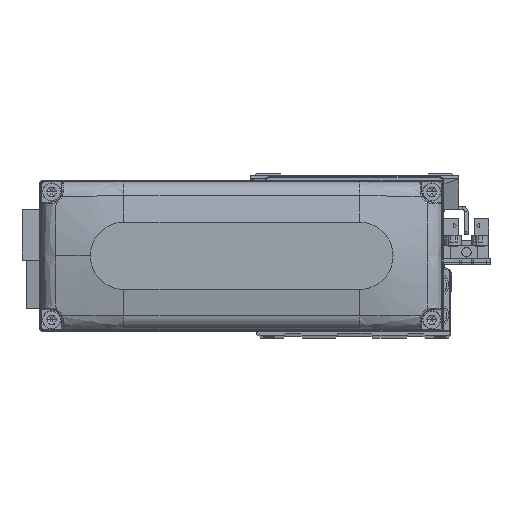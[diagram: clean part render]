
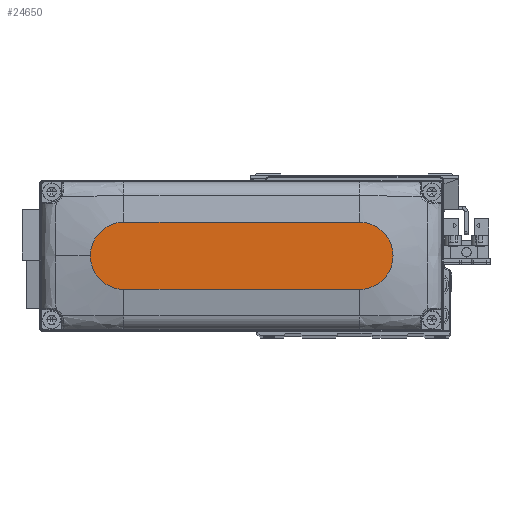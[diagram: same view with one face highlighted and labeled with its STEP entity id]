
A CAD part, top view. The second image highlights one B-rep face of the part: STEP entity #24650.
In plain terms, the highlighted planar face has unit normal (0, 0, 1).
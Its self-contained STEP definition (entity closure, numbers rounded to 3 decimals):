
#516 = DIRECTION ( 'NONE',  ( 1., 0., 0. ) ) ;
#817 = CARTESIAN_POINT ( 'NONE',  ( 35., -10., 28. ) ) ;
#2904 = EDGE_CURVE ( 'NONE', #8252, #9537, #34887, .T. ) ;
#3504 = EDGE_CURVE ( 'NONE', #9537, #6026, #16979, .T. ) ;
#3656 = ORIENTED_EDGE ( 'NONE', *, *, #3504, .T. ) ;
#3746 = EDGE_LOOP ( 'NONE', ( #11002, #19437, #3656, #23848, #13402 ) ) ;
#4151 = CARTESIAN_POINT ( 'NONE',  ( -35., 10., 28. ) ) ;
#5231 = DIRECTION ( 'NONE',  ( 0., 0., 1. ) ) ;
#5399 = CIRCLE ( 'NONE', #10943, 10. ) ;
#5970 = DIRECTION ( 'NONE',  ( 1., 0., 0. ) ) ;
#6026 = VERTEX_POINT ( 'NONE', #817 ) ;
#8252 = VERTEX_POINT ( 'NONE', #4151 ) ;
#8781 = VECTOR ( 'NONE', #37063, 1000. ) ;
#9254 = PLANE ( 'NONE',  #36785 ) ;
#9537 = VERTEX_POINT ( 'NONE', #21257 ) ;
#9634 = EDGE_CURVE ( 'NONE', #6026, #37285, #10045, .T. ) ;
#10045 = CIRCLE ( 'NONE', #34206, 10. ) ;
#10062 = VECTOR ( 'NONE', #516, 1000. ) ;
#10676 = LINE ( 'NONE', #23866, #8781 ) ;
#10943 = AXIS2_PLACEMENT_3D ( 'NONE', #34879, #5231, #18447 ) ;
#11002 = ORIENTED_EDGE ( 'NONE', *, *, #15292, .T. ) ;
#11327 = DIRECTION ( 'NONE',  ( 1., 0., 0. ) ) ;
#11760 = DIRECTION ( 'NONE',  ( 0., 0., 1. ) ) ;
#13402 = ORIENTED_EDGE ( 'NONE', *, *, #14060, .T. ) ;
#14060 = EDGE_CURVE ( 'NONE', #37285, #37682, #5399, .T. ) ;
#15292 = EDGE_CURVE ( 'NONE', #37682, #8252, #10676, .T. ) ;
#16232 = AXIS2_PLACEMENT_3D ( 'NONE', #27777, #40971, #11327 ) ;
#16979 = LINE ( 'NONE', #30168, #10062 ) ;
#18447 = DIRECTION ( 'NONE',  ( 1., 0., 0. ) ) ;
#19437 = ORIENTED_EDGE ( 'NONE', *, *, #2904, .T. ) ;
#21257 = CARTESIAN_POINT ( 'NONE',  ( -35., -10., 28. ) ) ;
#22427 = CARTESIAN_POINT ( 'NONE',  ( 0., 0., 28. ) ) ;
#23848 = ORIENTED_EDGE ( 'NONE', *, *, #9634, .T. ) ;
#23866 = CARTESIAN_POINT ( 'NONE',  ( -35., 10., 28. ) ) ;
#24650 = ADVANCED_FACE ( 'NONE', ( #38885 ), #9254, .T. ) ;
#24950 = DIRECTION ( 'NONE',  ( 1., 0., 0. ) ) ;
#27777 = CARTESIAN_POINT ( 'NONE',  ( -35., 0., 28. ) ) ;
#30168 = CARTESIAN_POINT ( 'NONE',  ( -35., -10., 28. ) ) ;
#34206 = AXIS2_PLACEMENT_3D ( 'NONE', #41384, #11760, #24950 ) ;
#34879 = CARTESIAN_POINT ( 'NONE',  ( 35., 0., 28. ) ) ;
#34887 = CIRCLE ( 'NONE', #16232, 10. ) ;
#35613 = DIRECTION ( 'NONE',  ( 0., 0., 1. ) ) ;
#36785 = AXIS2_PLACEMENT_3D ( 'NONE', #22427, #35613, #5970 ) ;
#37063 = DIRECTION ( 'NONE',  ( -1., 0., 0. ) ) ;
#37285 = VERTEX_POINT ( 'NONE', #39848 ) ;
#37682 = VERTEX_POINT ( 'NONE', #40378 ) ;
#38885 = FACE_OUTER_BOUND ( 'NONE', #3746, .T. ) ;
#39848 = CARTESIAN_POINT ( 'NONE',  ( 45., 0., 28. ) ) ;
#40378 = CARTESIAN_POINT ( 'NONE',  ( 35., 10., 28. ) ) ;
#40971 = DIRECTION ( 'NONE',  ( 0., 0., 1. ) ) ;
#41384 = CARTESIAN_POINT ( 'NONE',  ( 35., 0., 28. ) ) ;
